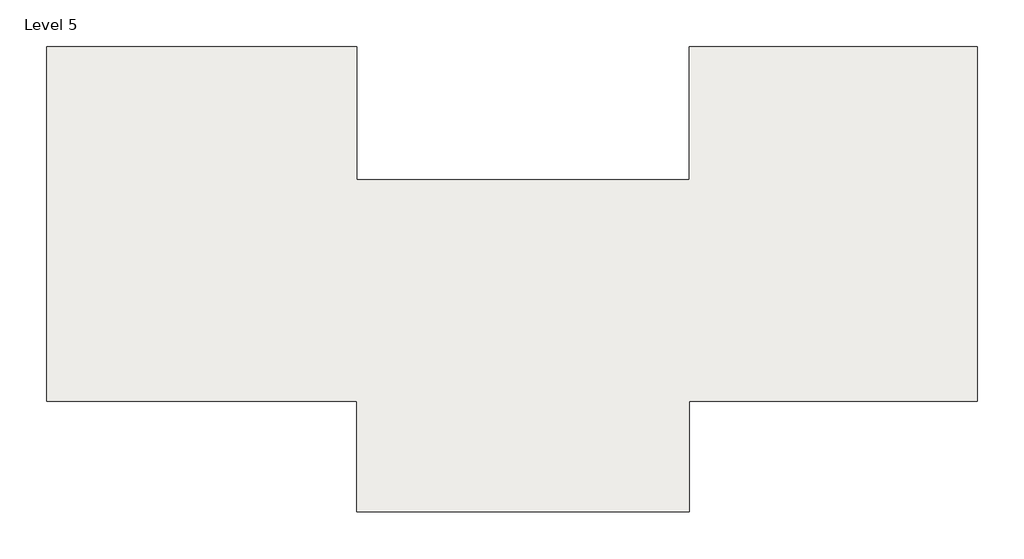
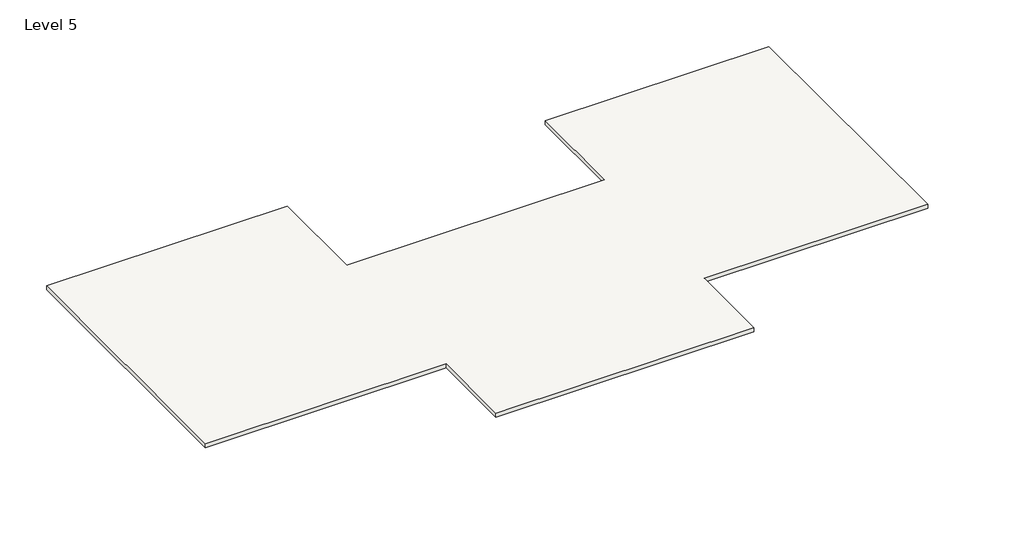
# One storey: 1 slab.
"""IFC4 building model written with IfcOpenShell, lengths in millimetres."""

from ifc_helpers import new_model, si_unit, frame, origin, place, context, project, spatial, polyline, outline, extrude, element, save

model = new_model("IFC4")

# Units and contexts
model_context = context("Model", 3, world=origin())
ifc_project = project(units=[si_unit("LENGTHUNIT", "METRE", prefix="MILLI")], contexts=[model_context])

# Site, building, storey
site = spatial("IfcSite", under=ifc_project)
building = spatial("IfcBuilding", under=site)
storey = spatial("IfcBuildingStorey", under=building, Name="Level 5", Elevation=14782.8)

# Slab
placement = place(None, origin())
element("IfcSlab", 1, ObjectType="Generic - 12\"", at=placement, inside=storey, context=model_context, shape_type="SweptSolid", body=[
    extrude(outline(polyline([(2876.9647544, 10145.5659381), (2876.9647544, 2830.3659381), (21164.9647544, 2830.3659381), (21164.9647544, 10145.5659381), (37014.5647544, 10145.5659381), (37014.5647544, -9361.6340619), (21164.9647544, -9361.6340619), (21164.9647544, -15457.6340619), (2876.9647544, -15457.6340619), (2876.9647544, -9361.6340619), (-14191.8352456, -9361.6340619), (-14191.8352456, 10145.5659381), (2876.9647544, 10145.5659381)])), frame((0.0, 0.0, 14478.0), z_axis=(0.0, 0.0, 1.0), x_axis=(1.0, 0.0, 0.0)), (0.0, 0.0, 1.0), 304.8),
])

save(model, "model.ifc")
